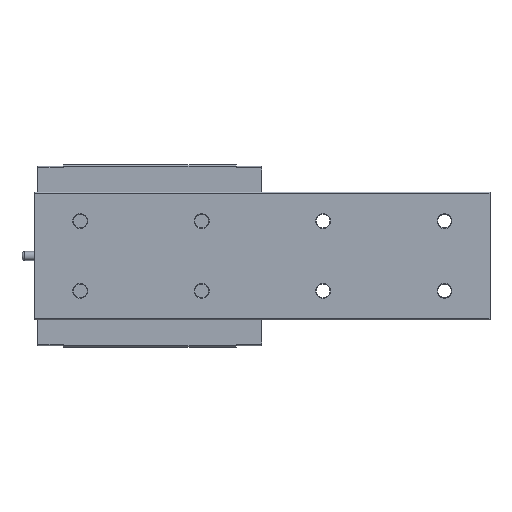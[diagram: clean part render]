
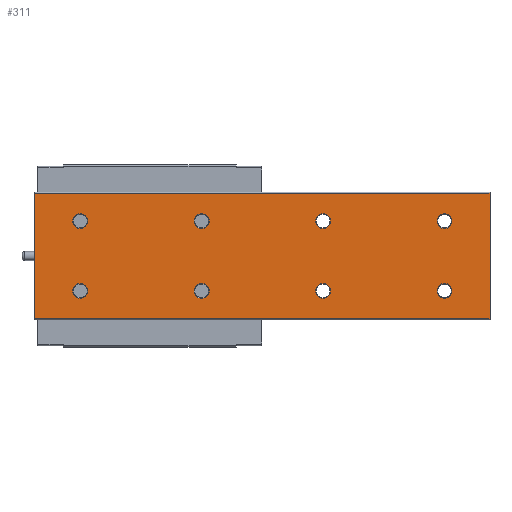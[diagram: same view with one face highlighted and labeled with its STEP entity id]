
A CAD part, front view. The second image highlights one B-rep face of the part: STEP entity #311.
In plain terms, the highlighted planar face has unit normal (0, -1, 0).
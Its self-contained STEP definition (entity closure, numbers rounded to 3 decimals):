
#311 = ADVANCED_FACE( '', ( #693, #694, #695, #696, #697, #698, #699, #700, #701 ), #702, .F. );
#693 = FACE_BOUND( '', #1183, .T. );
#694 = FACE_BOUND( '', #1184, .T. );
#695 = FACE_BOUND( '', #1185, .T. );
#696 = FACE_BOUND( '', #1186, .T. );
#697 = FACE_BOUND( '', #1187, .T. );
#698 = FACE_BOUND( '', #1188, .T. );
#699 = FACE_BOUND( '', #1189, .T. );
#700 = FACE_BOUND( '', #1190, .T. );
#701 = FACE_OUTER_BOUND( '', #1191, .T. );
#702 = PLANE( '', #1192 );
#1183 = EDGE_LOOP( '', ( #1933 ) );
#1184 = EDGE_LOOP( '', ( #1934 ) );
#1185 = EDGE_LOOP( '', ( #1935 ) );
#1186 = EDGE_LOOP( '', ( #1936 ) );
#1187 = EDGE_LOOP( '', ( #1937 ) );
#1188 = EDGE_LOOP( '', ( #1938 ) );
#1189 = EDGE_LOOP( '', ( #1939 ) );
#1190 = EDGE_LOOP( '', ( #1940 ) );
#1191 = EDGE_LOOP( '', ( #1941, #1942, #1943, #1944 ) );
#1192 = AXIS2_PLACEMENT_3D( '', #1945, #1946, #1947 );
#1933 = ORIENTED_EDGE( '', *, *, #2743, .F. );
#1934 = ORIENTED_EDGE( '', *, *, #2847, .F. );
#1935 = ORIENTED_EDGE( '', *, *, #2848, .F. );
#1936 = ORIENTED_EDGE( '', *, *, #2849, .F. );
#1937 = ORIENTED_EDGE( '', *, *, #2850, .F. );
#1938 = ORIENTED_EDGE( '', *, *, #2851, .F. );
#1939 = ORIENTED_EDGE( '', *, *, #2669, .F. );
#1940 = ORIENTED_EDGE( '', *, *, #2644, .F. );
#1941 = ORIENTED_EDGE( '', *, *, #2800, .T. );
#1942 = ORIENTED_EDGE( '', *, *, #2852, .F. );
#1943 = ORIENTED_EDGE( '', *, *, #2853, .F. );
#1944 = ORIENTED_EDGE( '', *, *, #2854, .T. );
#1945 = CARTESIAN_POINT( '', ( 150., 0., 20.7 ) );
#1946 = DIRECTION( '', ( 0., 1., 0. ) );
#1947 = DIRECTION( '', ( 0., 0., 1. ) );
#2644 = EDGE_CURVE( '', #3102, #3102, #3103, .T. );
#2669 = EDGE_CURVE( '', #3147, #3147, #3148, .T. );
#2743 = EDGE_CURVE( '', #3272, #3272, #3273, .T. );
#2800 = EDGE_CURVE( '', #3365, #3363, #3366, .T. );
#2847 = EDGE_CURVE( '', #3436, #3436, #3437, .T. );
#2848 = EDGE_CURVE( '', #3438, #3438, #3439, .T. );
#2849 = EDGE_CURVE( '', #3440, #3440, #3441, .T. );
#2850 = EDGE_CURVE( '', #3442, #3442, #3443, .T. );
#2851 = EDGE_CURVE( '', #3444, #3444, #3445, .T. );
#2852 = EDGE_CURVE( '', #3446, #3363, #3447, .T. );
#2853 = EDGE_CURVE( '', #3448, #3446, #3449, .T. );
#2854 = EDGE_CURVE( '', #3448, #3365, #3450, .T. );
#3102 = VERTEX_POINT( '', #3778 );
#3103 = CIRCLE( '', #3779, 2.455 );
#3147 = VERTEX_POINT( '', #3839 );
#3148 = CIRCLE( '', #3840, 2.455 );
#3272 = VERTEX_POINT( '', #3996 );
#3273 = CIRCLE( '', #3997, 2.455 );
#3363 = VERTEX_POINT( '', #4112 );
#3365 = VERTEX_POINT( '', #4115 );
#3366 = LINE( '', #4116, #4117 );
#3436 = VERTEX_POINT( '', #4209 );
#3437 = CIRCLE( '', #4210, 2.455 );
#3438 = VERTEX_POINT( '', #4211 );
#3439 = CIRCLE( '', #4212, 2.455 );
#3440 = VERTEX_POINT( '', #4213 );
#3441 = CIRCLE( '', #4214, 2.455 );
#3442 = VERTEX_POINT( '', #4215 );
#3443 = CIRCLE( '', #4216, 2.455 );
#3444 = VERTEX_POINT( '', #4217 );
#3445 = CIRCLE( '', #4218, 2.455 );
#3446 = VERTEX_POINT( '', #4219 );
#3447 = LINE( '', #4220, #4221 );
#3448 = VERTEX_POINT( '', #4222 );
#3449 = LINE( '', #4223, #4224 );
#3450 = LINE( '', #4225, #4226 );
#3778 = CARTESIAN_POINT( '', ( 55., 0., 9.045 ) );
#3779 = AXIS2_PLACEMENT_3D( '', #4534, #4535, #4536 );
#3839 = CARTESIAN_POINT( '', ( 135., 0., 9.045 ) );
#3840 = AXIS2_PLACEMENT_3D( '', #4562, #4563, #4564 );
#3996 = CARTESIAN_POINT( '', ( 15., 0., -13.955 ) );
#3997 = AXIS2_PLACEMENT_3D( '', #4675, #4676, #4677 );
#4112 = CARTESIAN_POINT( '', ( 0., 0., -20.7 ) );
#4115 = CARTESIAN_POINT( '', ( 0., 0., 20.7 ) );
#4116 = CARTESIAN_POINT( '', ( 0., 0., 20.7 ) );
#4117 = VECTOR( '', #4752, 1000. );
#4209 = CARTESIAN_POINT( '', ( 95., 0., -13.955 ) );
#4210 = AXIS2_PLACEMENT_3D( '', #4811, #4812, #4813 );
#4211 = CARTESIAN_POINT( '', ( 135., 0., -13.955 ) );
#4212 = AXIS2_PLACEMENT_3D( '', #4814, #4815, #4816 );
#4213 = CARTESIAN_POINT( '', ( 55., 0., -13.955 ) );
#4214 = AXIS2_PLACEMENT_3D( '', #4817, #4818, #4819 );
#4215 = CARTESIAN_POINT( '', ( 15., 0., 9.045 ) );
#4216 = AXIS2_PLACEMENT_3D( '', #4820, #4821, #4822 );
#4217 = CARTESIAN_POINT( '', ( 95., 0., 9.045 ) );
#4218 = AXIS2_PLACEMENT_3D( '', #4823, #4824, #4825 );
#4219 = CARTESIAN_POINT( '', ( 150., 0., -20.7 ) );
#4220 = CARTESIAN_POINT( '', ( 150., 0., -20.7 ) );
#4221 = VECTOR( '', #4826, 1000. );
#4222 = CARTESIAN_POINT( '', ( 150., 0., 20.7 ) );
#4223 = CARTESIAN_POINT( '', ( 150., 0., 20.7 ) );
#4224 = VECTOR( '', #4827, 1000. );
#4225 = CARTESIAN_POINT( '', ( 150., 0., 20.7 ) );
#4226 = VECTOR( '', #4828, 1000. );
#4534 = CARTESIAN_POINT( '', ( 55., 0., 11.5 ) );
#4535 = DIRECTION( '', ( 0., -1., 0. ) );
#4536 = DIRECTION( '', ( 0., 0., -1. ) );
#4562 = CARTESIAN_POINT( '', ( 135., 0., 11.5 ) );
#4563 = DIRECTION( '', ( 0., -1., 0. ) );
#4564 = DIRECTION( '', ( 0., 0., -1. ) );
#4675 = CARTESIAN_POINT( '', ( 15., 0., -11.5 ) );
#4676 = DIRECTION( '', ( 0., -1., 0. ) );
#4677 = DIRECTION( '', ( 0., 0., -1. ) );
#4752 = DIRECTION( '', ( 0., 0., -1. ) );
#4811 = CARTESIAN_POINT( '', ( 95., 0., -11.5 ) );
#4812 = DIRECTION( '', ( 0., -1., 0. ) );
#4813 = DIRECTION( '', ( 0., 0., -1. ) );
#4814 = CARTESIAN_POINT( '', ( 135., 0., -11.5 ) );
#4815 = DIRECTION( '', ( 0., -1., 0. ) );
#4816 = DIRECTION( '', ( 0., 0., -1. ) );
#4817 = CARTESIAN_POINT( '', ( 55., 0., -11.5 ) );
#4818 = DIRECTION( '', ( 0., -1., 0. ) );
#4819 = DIRECTION( '', ( 0., 0., -1. ) );
#4820 = CARTESIAN_POINT( '', ( 15., 0., 11.5 ) );
#4821 = DIRECTION( '', ( 0., -1., 0. ) );
#4822 = DIRECTION( '', ( 0., 0., -1. ) );
#4823 = CARTESIAN_POINT( '', ( 95., 0., 11.5 ) );
#4824 = DIRECTION( '', ( 0., -1., 0. ) );
#4825 = DIRECTION( '', ( 0., 0., -1. ) );
#4826 = DIRECTION( '', ( -1., 0., 0. ) );
#4827 = DIRECTION( '', ( 0., 0., -1. ) );
#4828 = DIRECTION( '', ( -1., 0., 0. ) );
